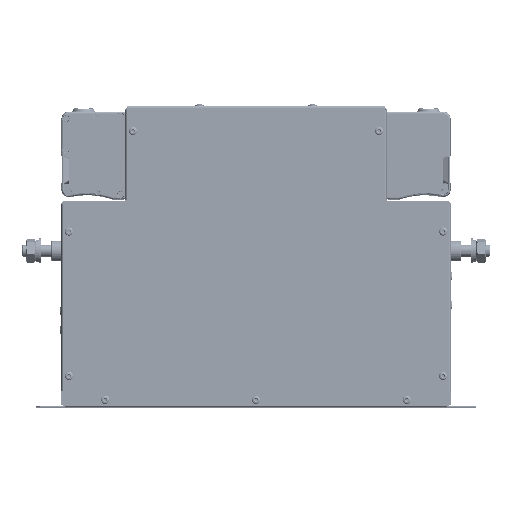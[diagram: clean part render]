
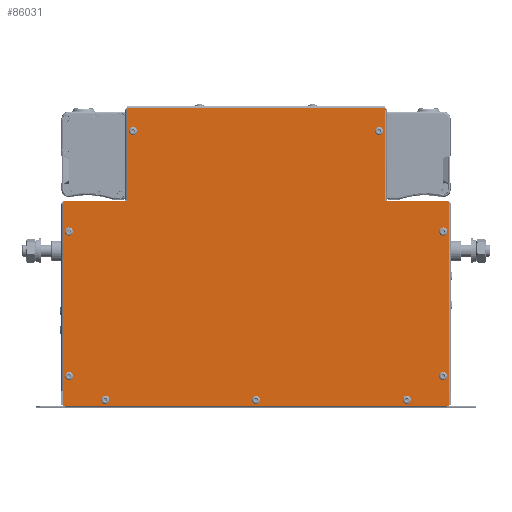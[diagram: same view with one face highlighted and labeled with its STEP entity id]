
A CAD part, top view. The second image highlights one B-rep face of the part: STEP entity #86031.
In plain terms, the highlighted planar face has unit normal (0, 0, 1).
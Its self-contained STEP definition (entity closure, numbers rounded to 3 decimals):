
#3786=FACE_BOUND('',#16948,.T.);
#3787=FACE_BOUND('',#16949,.T.);
#3788=FACE_BOUND('',#16950,.T.);
#3789=FACE_BOUND('',#16951,.T.);
#3790=FACE_BOUND('',#16952,.T.);
#3791=FACE_BOUND('',#16953,.T.);
#3792=FACE_BOUND('',#16954,.T.);
#3793=FACE_BOUND('',#16955,.T.);
#3794=FACE_BOUND('',#16956,.T.);
#4279=PLANE('',#92184);
#11445=FACE_OUTER_BOUND('',#16947,.T.);
#16947=EDGE_LOOP('',(#61899,#61900,#61901,#61902,#61903,#61904,#61905,#61906,
#61907,#61908));
#16948=EDGE_LOOP('',(#61909));
#16949=EDGE_LOOP('',(#61910));
#16950=EDGE_LOOP('',(#61911));
#16951=EDGE_LOOP('',(#61912));
#16952=EDGE_LOOP('',(#61913));
#16953=EDGE_LOOP('',(#61914));
#16954=EDGE_LOOP('',(#61915));
#16955=EDGE_LOOP('',(#61916));
#16956=EDGE_LOOP('',(#61917));
#23704=CIRCLE('',#91075,3.25);
#23724=CIRCLE('',#91108,3.25);
#23744=CIRCLE('',#91141,3.25);
#23764=CIRCLE('',#91174,3.25);
#23784=CIRCLE('',#91207,3.25);
#23804=CIRCLE('',#91240,3.25);
#23824=CIRCLE('',#91273,3.25);
#23844=CIRCLE('',#91306,3.25);
#23864=CIRCLE('',#91339,3.25);
#28515=LINE('',#131522,#33731);
#28518=LINE('',#131527,#33734);
#28520=LINE('',#131531,#33736);
#28521=LINE('',#131533,#33737);
#28522=LINE('',#131535,#33738);
#28523=LINE('',#131537,#33739);
#28524=LINE('',#131539,#33740);
#28525=LINE('',#131541,#33741);
#28526=LINE('',#131543,#33742);
#28527=LINE('',#131544,#33743);
#33731=VECTOR('',#104927,10.);
#33734=VECTOR('',#104932,10.);
#33736=VECTOR('',#104936,10.);
#33737=VECTOR('',#104937,10.);
#33738=VECTOR('',#104938,10.);
#33739=VECTOR('',#104939,10.);
#33740=VECTOR('',#104940,10.);
#33741=VECTOR('',#104941,10.);
#33742=VECTOR('',#104942,10.);
#33743=VECTOR('',#104943,10.);
#38127=VERTEX_POINT('',#126960);
#38145=VERTEX_POINT('',#127045);
#38163=VERTEX_POINT('',#127130);
#38181=VERTEX_POINT('',#127215);
#38199=VERTEX_POINT('',#127300);
#38217=VERTEX_POINT('',#127385);
#38235=VERTEX_POINT('',#127470);
#38253=VERTEX_POINT('',#127555);
#38271=VERTEX_POINT('',#127640);
#39169=VERTEX_POINT('',#131520);
#39170=VERTEX_POINT('',#131521);
#39171=VERTEX_POINT('',#131526);
#39172=VERTEX_POINT('',#131530);
#39173=VERTEX_POINT('',#131532);
#39174=VERTEX_POINT('',#131534);
#39175=VERTEX_POINT('',#131536);
#39176=VERTEX_POINT('',#131538);
#39177=VERTEX_POINT('',#131540);
#39178=VERTEX_POINT('',#131542);
#45810=EDGE_CURVE('',#38127,#38127,#23704,.T.);
#45837=EDGE_CURVE('',#38145,#38145,#23724,.T.);
#45864=EDGE_CURVE('',#38163,#38163,#23744,.T.);
#45891=EDGE_CURVE('',#38181,#38181,#23764,.T.);
#45918=EDGE_CURVE('',#38199,#38199,#23784,.T.);
#45945=EDGE_CURVE('',#38217,#38217,#23804,.T.);
#45972=EDGE_CURVE('',#38235,#38235,#23824,.T.);
#45999=EDGE_CURVE('',#38253,#38253,#23844,.T.);
#46026=EDGE_CURVE('',#38271,#38271,#23864,.T.);
#47411=EDGE_CURVE('',#39169,#39170,#28515,.T.);
#47414=EDGE_CURVE('',#39170,#39171,#28518,.T.);
#47416=EDGE_CURVE('',#39169,#39172,#28520,.T.);
#47417=EDGE_CURVE('',#39172,#39173,#28521,.T.);
#47418=EDGE_CURVE('',#39173,#39174,#28522,.T.);
#47419=EDGE_CURVE('',#39174,#39175,#28523,.T.);
#47420=EDGE_CURVE('',#39175,#39176,#28524,.T.);
#47421=EDGE_CURVE('',#39177,#39176,#28525,.T.);
#47422=EDGE_CURVE('',#39178,#39177,#28526,.T.);
#47423=EDGE_CURVE('',#39171,#39178,#28527,.T.);
#61899=ORIENTED_EDGE('',*,*,#47411,.F.);
#61900=ORIENTED_EDGE('',*,*,#47416,.T.);
#61901=ORIENTED_EDGE('',*,*,#47417,.T.);
#61902=ORIENTED_EDGE('',*,*,#47418,.T.);
#61903=ORIENTED_EDGE('',*,*,#47419,.T.);
#61904=ORIENTED_EDGE('',*,*,#47420,.T.);
#61905=ORIENTED_EDGE('',*,*,#47421,.F.);
#61906=ORIENTED_EDGE('',*,*,#47422,.F.);
#61907=ORIENTED_EDGE('',*,*,#47423,.F.);
#61908=ORIENTED_EDGE('',*,*,#47414,.F.);
#61909=ORIENTED_EDGE('',*,*,#45810,.T.);
#61910=ORIENTED_EDGE('',*,*,#45837,.T.);
#61911=ORIENTED_EDGE('',*,*,#45864,.T.);
#61912=ORIENTED_EDGE('',*,*,#45891,.T.);
#61913=ORIENTED_EDGE('',*,*,#45918,.T.);
#61914=ORIENTED_EDGE('',*,*,#45945,.T.);
#61915=ORIENTED_EDGE('',*,*,#45972,.T.);
#61916=ORIENTED_EDGE('',*,*,#45999,.T.);
#61917=ORIENTED_EDGE('',*,*,#46026,.T.);
#86031=ADVANCED_FACE('',(#11445,#3786,#3787,#3788,#3789,#3790,#3791,#3792,
#3793,#3794),#4279,.T.);
#91075=AXIS2_PLACEMENT_3D('',#126961,#101705,#101706);
#91108=AXIS2_PLACEMENT_3D('',#127046,#101778,#101779);
#91141=AXIS2_PLACEMENT_3D('',#127131,#101851,#101852);
#91174=AXIS2_PLACEMENT_3D('',#127216,#101924,#101925);
#91207=AXIS2_PLACEMENT_3D('',#127301,#101997,#101998);
#91240=AXIS2_PLACEMENT_3D('',#127386,#102070,#102071);
#91273=AXIS2_PLACEMENT_3D('',#127471,#102143,#102144);
#91306=AXIS2_PLACEMENT_3D('',#127556,#102216,#102217);
#91339=AXIS2_PLACEMENT_3D('',#127641,#102289,#102290);
#92184=AXIS2_PLACEMENT_3D('',#131529,#104934,#104935);
#101705=DIRECTION('center_axis',(0.,0.,
-1.));
#101706=DIRECTION('ref_axis',(0.945,-0.328,0.));
#101778=DIRECTION('center_axis',(0.,0.,
-1.));
#101779=DIRECTION('ref_axis',(0.945,-0.328,0.));
#101851=DIRECTION('center_axis',(0.,0.,
-1.));
#101852=DIRECTION('ref_axis',(1.,0.,0.));
#101924=DIRECTION('center_axis',(0.,0.,
-1.));
#101925=DIRECTION('ref_axis',(0.945,-0.328,0.));
#101997=DIRECTION('center_axis',(0.,0.,
-1.));
#101998=DIRECTION('ref_axis',(1.,0.,0.));
#102070=DIRECTION('center_axis',(0.,0.,
-1.));
#102071=DIRECTION('ref_axis',(1.,0.,0.));
#102143=DIRECTION('center_axis',(0.,0.,
-1.));
#102144=DIRECTION('ref_axis',(1.,0.,0.));
#102216=DIRECTION('center_axis',(0.,0.,
-1.));
#102217=DIRECTION('ref_axis',(1.,0.,0.));
#102289=DIRECTION('center_axis',(0.,0.,
-1.));
#102290=DIRECTION('ref_axis',(1.,0.,0.));
#104927=DIRECTION('',(0.707,-0.707,0.));
#104932=DIRECTION('',(0.,-1.,0.));
#104934=DIRECTION('center_axis',(0.,0.,
1.));
#104935=DIRECTION('ref_axis',(1.,0.,0.));
#104936=DIRECTION('',(-1.,0.,0.));
#104937=DIRECTION('',(0.,1.,0.));
#104938=DIRECTION('',(-1.,0.,0.));
#104939=DIRECTION('',(0.,-1.,0.));
#104940=DIRECTION('',(-1.,0.,0.));
#104941=DIRECTION('',(0.707,0.707,0.));
#104942=DIRECTION('',(0.,1.,0.));
#104943=DIRECTION('',(-1.,0.,0.));
#126960=CARTESIAN_POINT('',(145.93,26.066,54.75));
#126961=CARTESIAN_POINT('Origin',(149.,25.,54.75));
#127045=CARTESIAN_POINT('',(145.93,141.066,54.75));
#127046=CARTESIAN_POINT('Origin',(149.,140.,54.75));
#127130=CARTESIAN_POINT('',(116.75,6.,54.75));
#127131=CARTESIAN_POINT('Origin',(120.,6.,54.75));
#127215=CARTESIAN_POINT('',(94.93,221.066,54.75));
#127216=CARTESIAN_POINT('Origin',(98.,220.,54.75));
#127300=CARTESIAN_POINT('',(-123.25,6.,54.75));
#127301=CARTESIAN_POINT('Origin',(-120.,6.,54.75));
#127385=CARTESIAN_POINT('',(-3.25,6.,54.75));
#127386=CARTESIAN_POINT('Origin',(0.,6.,
54.75));
#127470=CARTESIAN_POINT('',(-152.25,25.,54.75));
#127471=CARTESIAN_POINT('Origin',(-149.,25.,54.75));
#127555=CARTESIAN_POINT('',(-152.25,140.,54.75));
#127556=CARTESIAN_POINT('Origin',(-149.,140.,54.75));
#127640=CARTESIAN_POINT('',(-101.25,220.,54.75));
#127641=CARTESIAN_POINT('Origin',(-98.,220.,54.75));
#131520=CARTESIAN_POINT('',(152.5,164.,54.75));
#131521=CARTESIAN_POINT('',(153.5,163.,54.75));
#131522=CARTESIAN_POINT('',(125.5,191.,54.75));
#131526=CARTESIAN_POINT('',(153.5,1.,54.75));
#131527=CARTESIAN_POINT('',(153.5,1.,54.75));
#131529=CARTESIAN_POINT('Origin',(0.,120.5,
54.75));
#131530=CARTESIAN_POINT('',(102.5,164.,54.75));
#131531=CARTESIAN_POINT('',(76.75,164.,54.75));
#131532=CARTESIAN_POINT('',(102.5,238.2,54.75));
#131533=CARTESIAN_POINT('',(102.5,142.25,54.75));
#131534=CARTESIAN_POINT('',(-102.5,238.2,54.75));
#131535=CARTESIAN_POINT('',(51.25,238.2,54.75));
#131536=CARTESIAN_POINT('',(-102.5,164.,54.75));
#131537=CARTESIAN_POINT('',(-102.5,180.25,54.75));
#131538=CARTESIAN_POINT('',(-152.5,164.,54.75));
#131539=CARTESIAN_POINT('',(-51.25,164.,54.75));
#131540=CARTESIAN_POINT('',(-153.5,163.,54.75));
#131541=CARTESIAN_POINT('',(-125.5,191.,54.75));
#131542=CARTESIAN_POINT('',(-153.5,1.,54.75));
#131543=CARTESIAN_POINT('',(-153.5,240.,54.75));
#131544=CARTESIAN_POINT('',(-153.5,1.,54.75));
